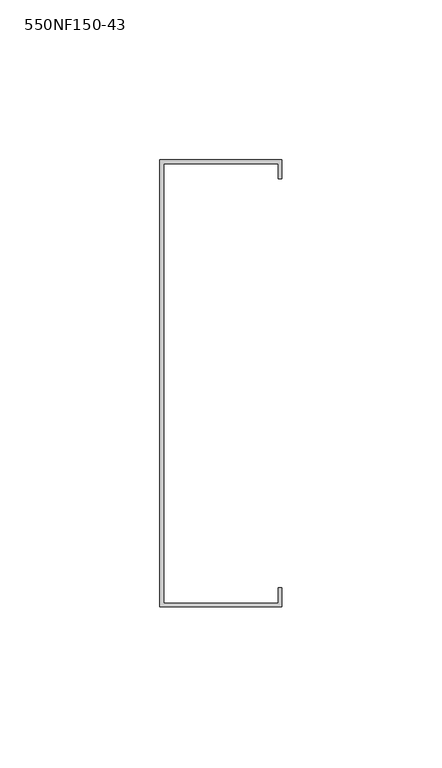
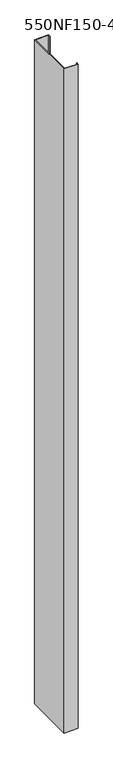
"""IFC4 building model written with IfcOpenShell, lengths in millimetres: column geometry, BIMSF-SSMA-S-Column : 550NF150-43."""

from ifc_helpers import new_model, si_unit, frame, origin, place, context, project, spatial, polyline, outline, extrude, source, transform, mapped, element, save


def column_550nf150_43_8920a52b(model_context):
    return source(origin(), model_context, "Body", "SweptSolid", [
        extrude(outline(polyline([(-11.9977877, -80.5871249), (-11.9977877, 59.1128751), (26.1022123, 59.1128751), (26.1022123, 53.1879908), (24.952528, 53.1879908), (24.952528, 57.9631908), (-10.8481035, 57.9631908), (-10.8481035, -79.4374407), (24.952528, -79.4374407), (24.952528, -74.6622407), (26.1022123, -74.6622407), (26.1022123, -80.5871249), (-11.9977877, -80.5871249)])), frame((0.0, 0.0, 5525.3929688), z_axis=(0.0, 0.0, 1.0), x_axis=(1.0, 0.0, 0.0)), (0.0, 0.0, 1.0), 1920.6427909),
    ])


if __name__ == "__main__":
    model = new_model("IFC4")
    model_context = context("Model", 3, world=origin())
    ifc_project = project(units=[si_unit("LENGTHUNIT", "METRE", prefix="MILLI")], contexts=[model_context])
    site = spatial("IfcSite", under=ifc_project)
    building = spatial("IfcBuilding", under=site)
    placement = place(None, origin())
    column_550nf150_43_shape = column_550nf150_43_8920a52b(model_context)
    element("IfcColumn", 1, ObjectType="BIMSF-SSMA-S-Column : 550NF150-43", at=placement, inside=building, context=model_context, shape_type="MappedRepresentation", body=[
        mapped(column_550nf150_43_shape, transform((0.0, 0.0, 0.0), x_axis=(1.0, 0.0, 0.0), y_axis=(0.0, 1.0, 0.0), z_axis=(0.0, 0.0, 1.0))),
    ])
    save(model, "model.ifc")
